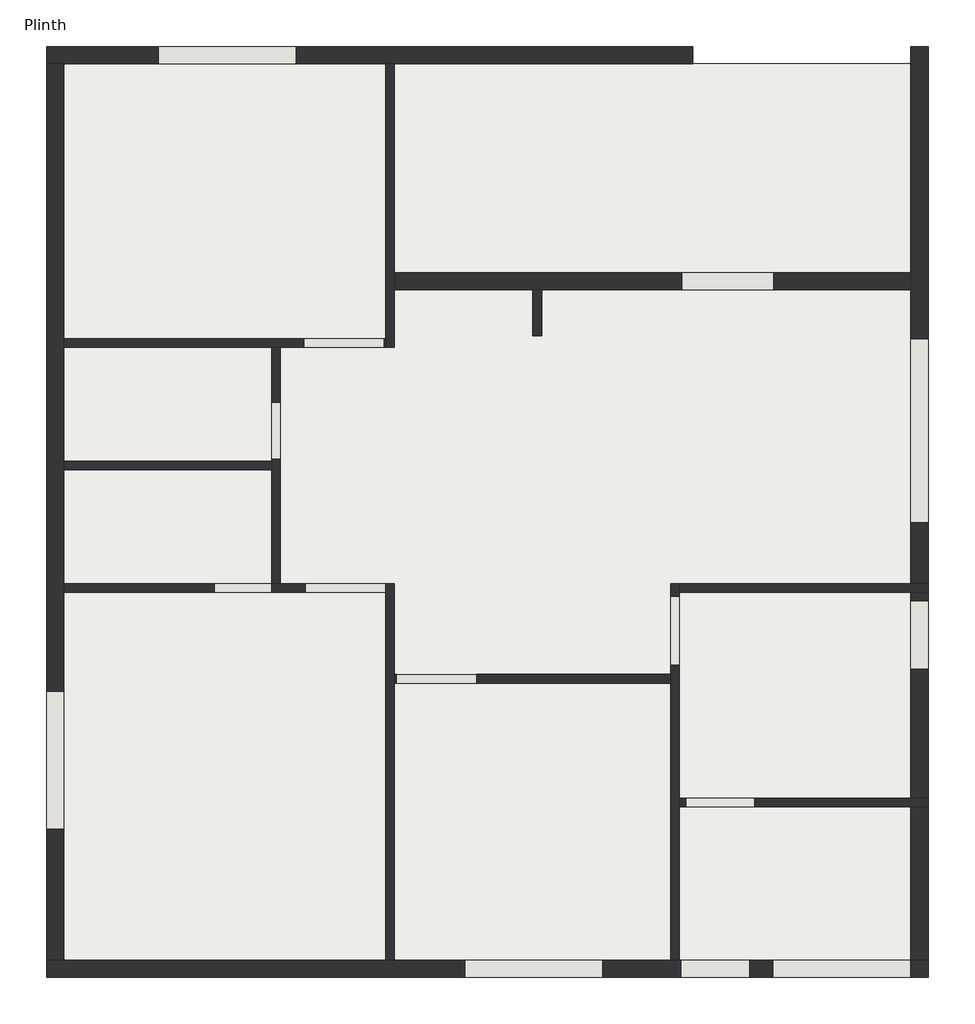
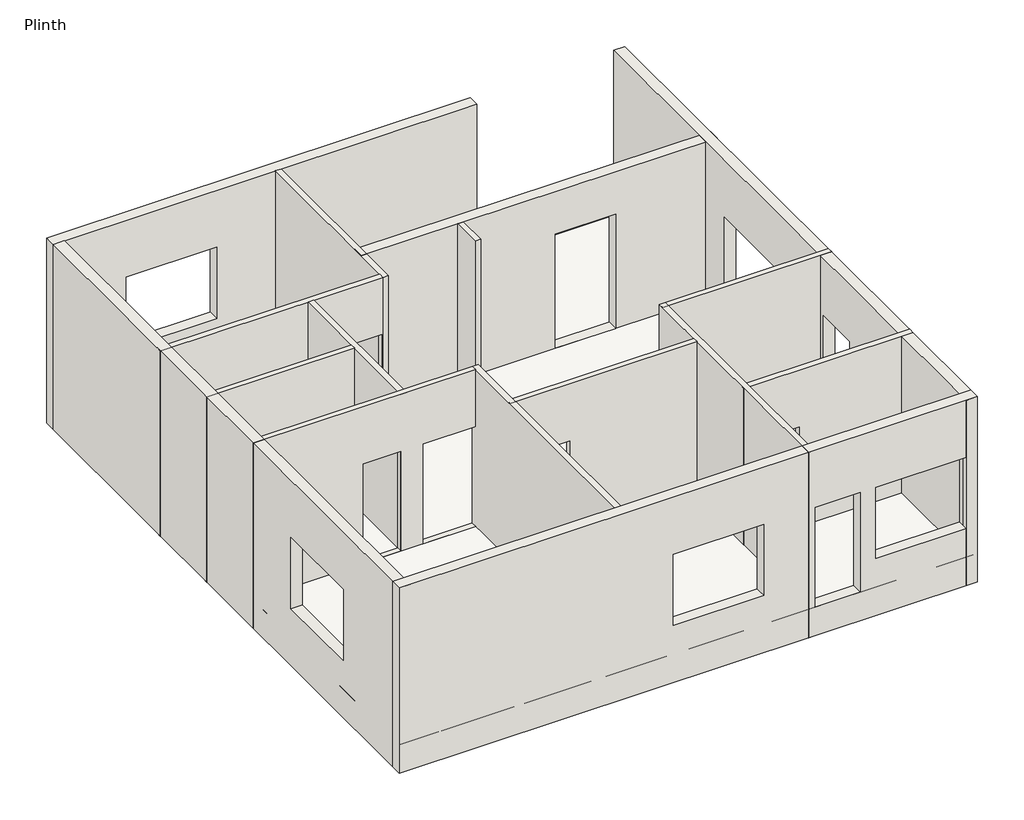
# One storey: 16 walls, 1 slab.
"""IFC4 building model written with IfcOpenShell, lengths in millimetres."""

import ifcopenshell
import ifcopenshell.guid

model = None  # the IFC model being written
_history = None  # IfcOwnerHistory: only IFC2X3 demands one
_inside = {}  # id of a spatial element -> (the spatial element, [elements in it])
_under = {}  # id of a project, library or spatial element -> (it, [spatial elements below it])
_declared = {}  # id of a project -> (the project, [libraries it declares])
_typed = {}  # id of a type object -> (the type object, [elements of that type])
_made_of = {}  # id of a material, layer set ... -> (it, [elements and type objects made of it])


def new_model(schema):
    """Start an empty IFC model of exactly this schema.

    Asked for "IFC4X3", IfcOpenShell would pick the latest addendum, in which some entities
    have other attributes; the version numbers below select the first issue.
    IFC2X3 requires an IfcOwnerHistory on every rooted entity: one is made here for all.
    """
    global model, _history
    if schema == "IFC4X3":
        model = ifcopenshell.file(schema_version=(4, 3, 0, 0))
    else:
        model = ifcopenshell.file(schema=schema)
    _inside.clear()
    _under.clear()
    _declared.clear()
    _typed.clear()
    _made_of.clear()
    _history = None
    if model.schema == "IFC2X3":
        org = make("IfcOrganization", Name="unknown")
        user = make(
            "IfcPersonAndOrganization",
            ThePerson=make("IfcPerson", FamilyName="unknown"),
            TheOrganization=org,
        )
        app = make(
            "IfcApplication",
            ApplicationDeveloper=org,
            Version="unknown",
            ApplicationFullName="unknown",
            ApplicationIdentifier="unknown",
        )
        _history = make(
            "IfcOwnerHistory",
            OwningUser=user,
            OwningApplication=app,
            ChangeAction="ADDED",
            CreationDate=0,
        )
    return model


def make(cls, **values):
    """One entity of the class cls with the attributes given. An attribute that is None is left unset."""
    return model.create_entity(
        cls, **{name: value for name, value in values.items() if value is not None}
    )


def rooted(cls, **values):
    """An entity with a GlobalId (a new one), such as an element, a storey or a relation."""
    return make(cls, GlobalId=ifcopenshell.guid.new(), OwnerHistory=_history, **values)


def si_unit(unit_type, name, prefix=None):
    """IfcSIUnit, for example si_unit("LENGTHUNIT", "METRE", prefix="MILLI")."""
    return make("IfcSIUnit", UnitType=unit_type, Prefix=prefix, Name=name)


def assignment(units):
    """IfcUnitAssignment: the units of a project."""
    return None if units is None else make("IfcUnitAssignment", Units=units)


def point(xyz):
    """IfcCartesianPoint."""
    return None if xyz is None else make("IfcCartesianPoint", Coordinates=xyz)


def direction(xyz):
    """IfcDirection."""
    return None if xyz is None else make("IfcDirection", DirectionRatios=xyz)


def frame(location, z_axis=None, x_axis=None):
    """IfcAxis2Placement3D, a coordinate frame: its origin and axes. An axis left out is left unset."""
    return make(
        "IfcAxis2Placement3D",
        Location=point(location),
        Axis=direction(z_axis),
        RefDirection=direction(x_axis),
    )


def origin():
    """The frame at (0, 0, 0) with its axes left unset."""
    return frame((0.0, 0.0, 0.0))


def origin_with_axes():
    """The frame at (0, 0, 0) with the z axis (0, 0, 1) and the x axis (1, 0, 0) written out."""
    return frame((0.0, 0.0, 0.0), z_axis=(0.0, 0.0, 1.0), x_axis=(1.0, 0.0, 0.0))


def place(relative_to, where):
    """IfcLocalPlacement: puts the frame where relative to a parent placement (None: the world)."""
    return make(
        "IfcLocalPlacement", PlacementRelTo=relative_to, RelativePlacement=where
    )


def context(
    kind, dimensions, precision=None, world=None, true_north=None, identifier=None
):
    """IfcGeometricRepresentationContext, for example the 3D "Model" context."""
    return make(
        "IfcGeometricRepresentationContext",
        ContextIdentifier=identifier,
        ContextType=kind,
        CoordinateSpaceDimension=dimensions,
        Precision=precision,
        WorldCoordinateSystem=world,
        TrueNorth=true_north,
    )


def project(units=None, contexts=None):
    """IfcProject with its units and contexts."""
    return rooted(
        "IfcProject",
        Name="project",
        RepresentationContexts=contexts,
        UnitsInContext=assignment(units),
    )


def spatial(cls, under=None, at=None, **own):
    """A site, building, storey or space (cls), placed at a placement, below another one or the project."""
    s = rooted(cls, ObjectPlacement=at, **own)
    if under is not None:
        _under.setdefault(under.id(), (under, []))[1].append(s)
    return s


def polyline(points):
    """IfcPolyline through the points."""
    return make("IfcPolyline", Points=[point(p) for p in points])


def outline(outer, holes=None, kind="AREA"):
    """IfcArbitraryClosedProfileDef: a profile drawn as a closed curve; with holes, ...WithVoids."""
    if holes is None:
        return make("IfcArbitraryClosedProfileDef", ProfileType=kind, OuterCurve=outer)
    return make(
        "IfcArbitraryProfileDefWithVoids",
        ProfileType=kind,
        OuterCurve=outer,
        InnerCurves=holes,
    )


def extrude(swept, where, along, depth):
    """IfcExtrudedAreaSolid: the profile swept, set in the frame where, extruded along a direction by depth."""
    return make(
        "IfcExtrudedAreaSolid",
        SweptArea=swept,
        Position=where,
        ExtrudedDirection=direction(along),
        Depth=depth,
    )


def faces_of(points, faces, orient=None, outer=None):
    """IfcFace entities. A face is a list of loops; a loop is a list of indices into points, from 0.

    orient and outer hold one flag for each loop. By default every Orientation is true, the
    first loop of a face is its IfcFaceOuterBound and the others are IfcFaceBound.
    """
    made = []
    for i, loops in enumerate(faces):
        bounds = []
        for j, loop in enumerate(loops):
            is_outer = j == 0 if outer is None else outer[i][j]
            bounds.append(
                make(
                    "IfcFaceOuterBound" if is_outer else "IfcFaceBound",
                    Bound=make("IfcPolyLoop", Polygon=[points[k] for k in loop]),
                    Orientation=True if orient is None else orient[i][j],
                )
            )
        made.append(make("IfcFace", Bounds=bounds))
    return made


def faceted_brep(points, faces, orient=None, outer=None, voids=None):
    """IfcFacetedBrep: a solid bounded by flat faces; with voids (closed shells), ...WithVoids."""
    shared = [point(p) for p in points]
    hull = make("IfcClosedShell", CfsFaces=faces_of(shared, faces, orient, outer))
    if voids is None:
        return make("IfcFacetedBrep", Outer=hull)
    return make(
        "IfcFacetedBrepWithVoids",
        Outer=hull,
        Voids=[
            make(cls, CfsFaces=faces_of(shared, fs, o, b)) for cls, fs, o, b in voids
        ],
    )


def shape(context_of_items, identifier, shape_type, items):
    """IfcShapeRepresentation: the items that make up one representation, for example the "Body"."""
    return make(
        "IfcShapeRepresentation",
        ContextOfItems=context_of_items,
        RepresentationIdentifier=identifier,
        RepresentationType=shape_type,
        Items=items,
    )


def made_of(thing, what):
    """Note that an element or type object is made of a material, layer set ...; save() writes the relation."""
    if what is not None:
        _made_of.setdefault(what.id(), (what, []))[1].append(thing)
    return thing


def element(
    cls,
    number,
    at=None,
    inside=None,
    cuts=None,
    type_object=None,
    material=None,
    context=None,
    identifier="Body",
    shape_type=None,
    held_by="IfcProductDefinitionShape",
    body=None,
    shapes=None,
    **own,
):
    """One element of the class cls, such as IfcWall. Its Tag is "e" and its number.

    at: its placement. inside: the storey or other place that contains it. cuts: it is an
    opening in that element (IfcRelVoidsElement). A single representation is given by context,
    identifier, shape_type and body (its items); several are given by shapes. held_by: the class
    of the entity that holds the representations. save() writes the other relations.
    """
    e = rooted(cls, Tag="e%d" % number, ObjectPlacement=at, **own)
    if body is not None:
        shapes = [shape(context, identifier, shape_type, body)]
    if shapes is not None:
        e.Representation = make(held_by, Representations=shapes)
    if inside is not None:
        _inside.setdefault(inside.id(), (inside, []))[1].append(e)
    if cuts is not None:
        rooted(
            "IfcRelVoidsElement", RelatingBuildingElement=cuts, RelatedOpeningElement=e
        )
    if type_object is not None:
        _typed.setdefault(type_object.id(), (type_object, []))[1].append(e)
    return made_of(e, material)


def aggregate(whole, parts):
    """IfcRelAggregates: a whole, such as a stair, and the parts it consists of."""
    return rooted("IfcRelAggregates", RelatingObject=whole, RelatedObjects=parts)


def save(model, path):
    """Write the relations noted so far, then the file.

    IfcRelAggregates (storeys below a building ...), IfcRelContainedInSpatialStructure (elements
    in a storey), IfcRelDefinesByType, IfcRelAssociatesMaterial and IfcRelDeclares: one each for
    every whole, place, type object, material and project.
    """
    for whole, parts in _under.values():
        aggregate(whole, parts)
    for where, things in _inside.values():
        rooted(
            "IfcRelContainedInSpatialStructure",
            RelatedElements=things,
            RelatingStructure=where,
        )
    for kind, things in _typed.values():
        rooted("IfcRelDefinesByType", RelatedObjects=things, RelatingType=kind)
    for what, things in _made_of.values():
        rooted("IfcRelAssociatesMaterial", RelatedObjects=things, RelatingMaterial=what)
    for by, libraries in _declared.values():
        rooted("IfcRelDeclares", RelatingContext=by, RelatedDefinitions=libraries)
    model.write(path)


model = new_model("IFC4")

# Units and contexts
model_context = context("Model", 3, world=origin())
ifc_project = project(units=[si_unit("LENGTHUNIT", "METRE", prefix="MILLI")], contexts=[model_context])

# Site, building, storey
site = spatial("IfcSite", under=ifc_project)
building = spatial("IfcBuilding", under=site)
storey = spatial("IfcBuildingStorey", under=building, Name="Plinth", Elevation=609.6)

# Slab
placement = place(None, origin())
element("IfcSlab", 1, ObjectType="SLA - 02", at=placement, inside=storey, context=model_context, shape_type="SweptSolid", body=[
    extrude(outline(polyline([(13466.6203098, 19245.6371609), (13466.6203098, 19017.0371609), (16589.659521, 19017.0371609), (16589.659521, 6901.2371609), (4898.1305092, 6901.2371609), (4898.1305092, 19245.6371609), (13466.6203098, 19245.6371609)])), frame((0.0, 0.0, 482.6), z_axis=(0.0, 0.0, 1.0), x_axis=(1.0, 0.0, 0.0)), (0.0, 0.0, 1.0), 127.0),
])

# Walls
element("IfcWall", 2, ObjectType="Brick_Flyash_4 1/2 \"thk Core. 5 1/2\"", at=placement, inside=storey, context=model_context, shape_type="SweptSolid", body=[
    extrude(outline(polyline([(9393.9305092, 6901.2371609), (9393.9305092, 12120.9371609), (9508.2305092, 12120.9371609), (9508.2305092, 6901.2371609), (9393.9305092, 6901.2371609)])), origin_with_axes(), (0.0, 0.0, 1.0), 3962.4),
])
element("IfcWall", 3, ObjectType="Brick_Flyash_9\"thk_Core. 10\"", at=placement, inside=storey, context=model_context, shape_type="SweptSolid", body=[
    extrude(outline(polyline([(19017.0371609, 0.0), (6901.2371609, 0.0), (6901.2371609, 3962.4), (19017.0371609, 3962.4), (19017.0371609, 0.0)]), holes=[polyline([(8864.7372795, 2743.2), (8864.7372795, 1219.2), (10693.5372795, 1219.2), (10693.5372795, 2743.2), (8864.7372795, 2743.2)])]), frame((4898.1305092, 0.0, 0.0), z_axis=(1.0, 0.0, 0.0), x_axis=(0.0, 1.0, 0.0)), (0.0, 0.0, 1.0), 228.6),
])
element("IfcWall", 4, ObjectType="Brick_Flyash_9\"thk_Core. 10\"", at=placement, inside=storey, context=model_context, shape_type="Brep", body=[
    faceted_brep([(4898.1305092, 6901.2371609, 0.0), (16589.659521, 6901.2371609, 0.0), (16589.659521, 6901.2371609, 3962.4), (4898.1305092, 6901.2371609, 3962.4), (12272.1972266, 6901.2371609, 1219.2), (10443.3972266, 6901.2371609, 1219.2), (10443.3972266, 6901.2371609, 2743.2), (12272.1972266, 6901.2371609, 2743.2), (14530.2414944, 6901.2371609, 2743.2), (16359.0414944, 6901.2371609, 2743.2), (16359.0414944, 6901.2371609, 1219.2), (14530.2414944, 6901.2371609, 1219.2), (13308.6084835, 6901.2371609, 2743.2), (14223.0084835, 6901.2371609, 2743.2), (14223.0084835, 6901.2371609, 609.6), (13308.6084835, 6901.2371609, 609.6), (16589.659521, 7129.8371609, 0.0), (4898.1305092, 7129.8371609, 0.0), (4898.1305092, 7129.8371609, 3962.4), (16589.659521, 7129.8371609, 3962.4), (10443.3972266, 7129.8371609, 1219.2), (12272.1972266, 7129.8371609, 1219.2), (12272.1972266, 7129.8371609, 2743.2), (10443.3972266, 7129.8371609, 2743.2), (16359.0414944, 7129.8371609, 2743.2), (14530.2414944, 7129.8371609, 2743.2), (14530.2414944, 7129.8371609, 1219.2), (16359.0414944, 7129.8371609, 1219.2), (14223.0084835, 7129.8371609, 2743.2), (13308.6084835, 7129.8371609, 2743.2), (13308.6084835, 7129.8371609, 609.6), (14223.0084835, 7129.8371609, 609.6), (14530.2414944, 6999.5371609, 2743.2), (16359.0414944, 6999.5371609, 2743.2), (16359.0414944, 6999.5371609, 1219.2), (14530.2414944, 6999.5371609, 1219.2)], [[[0, 1, 2, 3], [4, 5, 6, 7], [8, 9, 10, 11], [12, 13, 14, 15]], [[16, 17, 18, 19], [20, 21, 22, 23], [24, 25, 26, 27], [28, 29, 30, 31]], [[1, 0, 17, 16]], [[2, 1, 16, 19]], [[3, 2, 19, 18]], [[0, 3, 18, 17]], [[4, 21, 20, 5]], [[5, 20, 23, 6]], [[6, 23, 22, 7]], [[21, 4, 7, 22]], [[8, 32, 25, 24, 33, 9]], [[10, 34, 27, 26, 35, 11]], [[33, 34, 10, 9]], [[34, 33, 24, 27]], [[32, 35, 26, 25]], [[35, 32, 8, 11]], [[28, 13, 12, 29]], [[29, 12, 15, 30]], [[30, 15, 14, 31]], [[13, 28, 31, 14]]]),
])
element("IfcWall", 5, ObjectType="Brick_Flyash_9\"thk_Core. 10\"", at=placement, inside=storey, context=model_context, shape_type="SweptSolid", body=[
    extrude(outline(polyline([(19245.6371609, 0.0), (6901.2371609, 0.0), (6901.2371609, 3962.4), (19245.6371609, 3962.4), (19245.6371609, 0.0)]), holes=[polyline([(15367.6891439, 1219.2), (15367.6891439, 2743.2), (12929.2891439, 2743.2), (12929.2891439, 1219.2), (15367.6891439, 1219.2)]), polyline([(10988.796963, 1524.0), (11898.196963, 1524.0), (11898.196963, 2743.2), (10988.796963, 2743.2), (10988.796963, 1524.0)])]), frame((16361.059521, 0.0, 0.0), z_axis=(1.0, 0.0, 0.0), x_axis=(0.0, 1.0, 0.0)), (0.0, 0.0, 1.0), 228.6),
])
element("IfcWall", 6, ObjectType="Brick_Flyash_4 1/2 \"thk Core. 5 1/2\"", at=placement, inside=storey, context=model_context, shape_type="SweptSolid", body=[
    extrude(outline(polyline([(15257.8371609, 0.0), (12006.6371609, 0.0), (12006.6371609, 3962.4), (15257.8371609, 3962.4), (15257.8371609, 0.0)]), holes=[polyline([(14531.5077329, 2743.2), (13769.5077329, 2743.2), (13769.5077329, 609.6), (14531.5077329, 609.6), (14531.5077329, 2743.2)])]), frame((7883.5771433, 0.0, 0.0), z_axis=(1.0, 0.0, 0.0), x_axis=(0.0, 1.0, 0.0)), (0.0, 0.0, 1.0), 114.3),
])
element("IfcWall", 7, ObjectType="Brick_Flyash_4 1/2 \"thk Core. 5 1/2\"", at=placement, inside=storey, context=model_context, shape_type="SweptSolid", body=[
    extrude(outline(polyline([(12120.9371609, 0.0), (6901.2371609, 0.0), (6901.2371609, 3962.4), (12120.9371609, 3962.4), (12120.9371609, 0.0)]), holes=[polyline([(11039.231594, 609.6), (11953.631594, 609.6), (11953.631594, 2743.2), (11039.231594, 2743.2), (11039.231594, 609.6)])]), frame((13175.1721168, 0.0, 0.0), z_axis=(1.0, 0.0, 0.0), x_axis=(0.0, 1.0, 0.0)), (0.0, 0.0, 1.0), 114.3),
])
element("IfcWall", 8, ObjectType="Brick_Flyash_4 1/2 \"thk Core. 5 1/2\"", at=placement, inside=storey, context=model_context, shape_type="SweptSolid", body=[
    extrude(outline(polyline([(16589.659521, 12006.6371609), (13175.1721168, 12006.6371609), (13175.1721168, 12120.9371609), (16589.659521, 12120.9371609), (16589.659521, 12006.6371609)])), origin_with_axes(), (0.0, 0.0, 1.0), 3962.4),
])
element("IfcWall", 9, ObjectType="Brick_Flyash_4 1/2 \"thk Core. 5 1/2\"", at=placement, inside=storey, context=model_context, shape_type="SweptSolid", body=[
    extrude(outline(polyline([(0.0, 13175.1721168), (0.0, 16589.659521), (3962.4, 16589.659521), (3962.4, 13175.1721168), (0.0, 13175.1721168)]), holes=[polyline([(609.6, 13373.1716451), (2743.2, 13373.1716451), (2743.2, 14287.5716451), (609.6, 14287.5716451), (609.6, 13373.1716451)])]), frame((0.0, 9161.8371609, 0.0), z_axis=(0.0, 1.0, 0.0), x_axis=(0.0, 0.0, 1.0)), (0.0, 0.0, 1.0), 114.3),
])
element("IfcWall", 10, ObjectType="Brick_Flyash_4 1/2 \"thk Core. 5 1/2\"", at=placement, inside=storey, context=model_context, shape_type="SweptSolid", body=[
    extrude(outline(polyline([(0.0, 9393.9305092), (0.0, 13175.1721168), (3962.4, 13175.1721168), (3962.4, 9393.9305092), (0.0, 9393.9305092)]), holes=[polyline([(609.6, 9534.8778123), (2743.2, 9534.8778123), (2743.2, 10601.6778123), (609.6, 10601.6778123), (609.6, 9534.8778123)])]), frame((0.0, 10804.0939883, 0.0), z_axis=(0.0, 1.0, 0.0), x_axis=(0.0, 0.0, 1.0)), (0.0, 0.0, 1.0), 114.3),
])
element("IfcWall", 11, ObjectType="Brick_Flyash_4 1/2 \"thk Core. 5 1/2\"", at=placement, inside=storey, context=model_context, shape_type="SweptSolid", body=[
    extrude(outline(polyline([(7883.5771433, 13632.2371609), (4898.1305092, 13632.2371609), (4898.1305092, 13746.5371609), (7883.5771433, 13746.5371609), (7883.5771433, 13632.2371609)])), origin_with_axes(), (0.0, 0.0, 1.0), 3962.4),
])
element("IfcWall", 12, ObjectType="Brick_Flyash_4 1/2 \"thk Core. 5 1/2\"", at=placement, inside=storey, context=model_context, shape_type="SweptSolid", body=[
    extrude(outline(polyline([(0.0, 4898.1305092), (0.0, 9393.9305092), (609.6, 9393.9305092), (609.6, 8327.1305092), (2743.2, 8327.1305092), (2743.2, 9393.9305092), (3962.4, 9393.9305092), (3962.4, 4898.1305092), (0.0, 4898.1305092)]), holes=[polyline([(2743.2, 7883.5771433), (609.6, 7883.5771433), (609.6, 7121.5771433), (2743.2, 7121.5771433), (2743.2, 7883.5771433)])]), frame((0.0, 12006.6371609, 0.0), z_axis=(0.0, 1.0, 0.0), x_axis=(0.0, 0.0, 1.0)), (0.0, 0.0, 1.0), 114.3),
])
element("IfcWall", 13, ObjectType="Brick_Flyash_4 1/2 \"thk Core. 5 1/2\"", at=placement, inside=storey, context=model_context, shape_type="SweptSolid", body=[
    extrude(outline(polyline([(9393.9305092, 15257.8371609), (9393.9305092, 19017.0371609), (9508.2305092, 19017.0371609), (9508.2305092, 15257.8371609), (9393.9305092, 15257.8371609)])), origin_with_axes(), (0.0, 0.0, 1.0), 3962.4),
])
element("IfcWall", 14, ObjectType="Brick_Flyash_9\"thk_Core. 10\"", at=placement, inside=storey, context=model_context, shape_type="SweptSolid", body=[
    extrude(outline(polyline([(0.0, 4898.1305092), (0.0, 13466.6203098), (3962.4, 13466.6203098), (3962.4, 4898.1305092), (0.0, 4898.1305092)]), holes=[polyline([(1219.2, 8209.9072448), (1219.2, 6381.1072448), (2743.2, 6381.1072448), (2743.2, 8209.9072448), (1219.2, 8209.9072448)])]), frame((0.0, 19017.0371609, 0.0), z_axis=(0.0, 1.0, 0.0), x_axis=(0.0, 0.0, 1.0)), (0.0, 0.0, 1.0), 228.6),
])
element("IfcWall", 15, ObjectType="Brick_Flyash_9\"thk_Core. 10\"", at=placement, inside=storey, context=model_context, shape_type="SweptSolid", body=[
    extrude(outline(polyline([(0.0, 9393.9305092), (0.0, 16589.659521), (3962.4, 16589.659521), (3962.4, 9393.9305092), (0.0, 9393.9305092)]), holes=[polyline([(609.6, 14542.4344503), (609.6, 13323.2344503), (3048.0, 13323.2344503), (3048.0, 14542.4344503), (609.6, 14542.4344503)])]), frame((0.0, 16018.7620207, 0.0), z_axis=(0.0, 1.0, 0.0), x_axis=(0.0, 0.0, 1.0)), (0.0, 0.0, 1.0), 228.6),
])
element("IfcWall", 16, ObjectType="Brick_Flyash_4 1/2 \"thk Core. 5 1/2\"", at=placement, inside=storey, context=model_context, shape_type="SweptSolid", body=[
    extrude(outline(polyline([(0.0, 4898.1305092), (0.0, 9393.9305092), (3962.4, 9393.9305092), (3962.4, 4898.1305092), (0.0, 4898.1305092)]), holes=[polyline([(2743.2, 9376.7136189), (609.6, 9376.7136189), (609.6, 8309.9136189), (2743.2, 8309.9136189), (2743.2, 9376.7136189)])]), frame((0.0, 15257.8371609, 0.0), z_axis=(0.0, 1.0, 0.0), x_axis=(0.0, 0.0, 1.0)), (0.0, 0.0, 1.0), 114.3),
])
element("IfcWall", 17, ObjectType="Brick_Flyash_4 1/2 \"thk Core. 5 1/2\"", at=placement, inside=storey, context=model_context, shape_type="SweptSolid", body=[
    extrude(outline(polyline([(11347.5363451, 15409.1620207), (11347.5363451, 16018.7620207), (11461.8363451, 16018.7620207), (11461.8363451, 15409.1620207), (11347.5363451, 15409.1620207)])), origin_with_axes(), (0.0, 0.0, 1.0), 3962.4),
])

save(model, "model.ifc")
